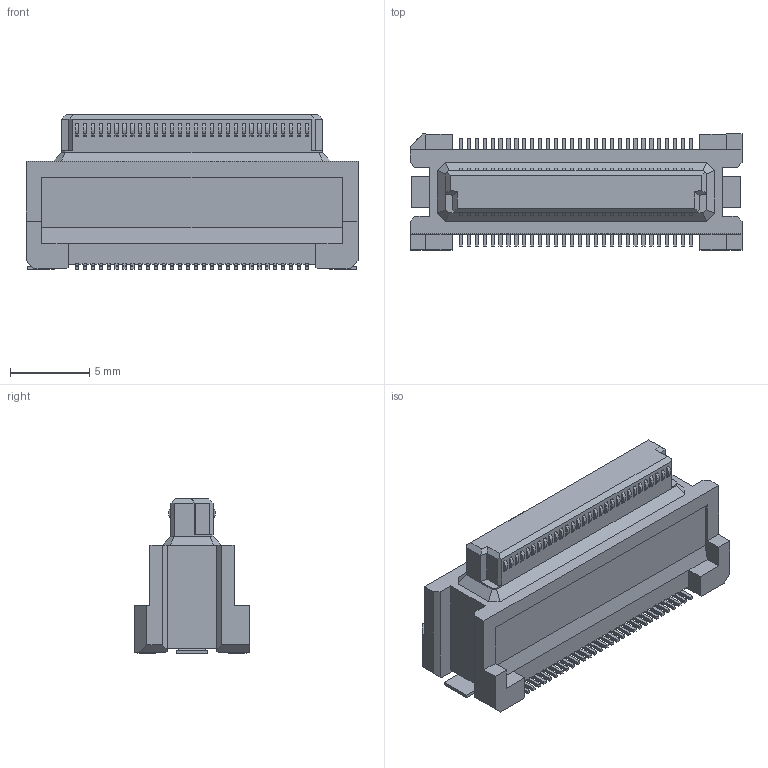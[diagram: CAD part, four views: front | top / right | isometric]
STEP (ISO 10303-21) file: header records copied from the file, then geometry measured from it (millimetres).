
FILE_DESCRIPTION(('Creo Elements/Direct Modeling STEP Export'),'2;1');
FILE_NAME('DY10-060FS-1.stp','2017-11-28T11:32:05',(''),(''),'Creo Elements/Direct Modeling STEP processor for AP214 (Solid Model)','Creo Elements/Direct Modeling 19.0F 14-Feb-2017 (C) Parametric Technology GmbH','');
FILE_SCHEMA(('AUTOMOTIVE_DESIGN { 1 0 10303 214 1 1 1 1 }'));
Length unit declared in the file: millimetre
Products named in the file (2): DY10-060FS-1
Assembly tree (1 placements, depth 2):
  DY10-060FS-1
    DY10-060FS-1
Bounding box: 20.9 x 7.3 x 9.73 mm (x, y, z)
Volume: 796.9 mm3; surface area: 843.1 mm2
Topology: 1 solids, 1 shells, 1468 faces, 4169 edges, 2766 vertices
Faces by surface type: plane 1096, cylinder 364, bspline 8
Entity records: 46678 total; most frequent: CARTESIAN_POINT 9273, ORIENTED_EDGE 8338, DIRECTION 7187, EDGE_CURVE 4169, VECTOR 3147, LINE 3147, VERTEX_POINT 2766, AXIS2_PLACEMENT_3D 2020
